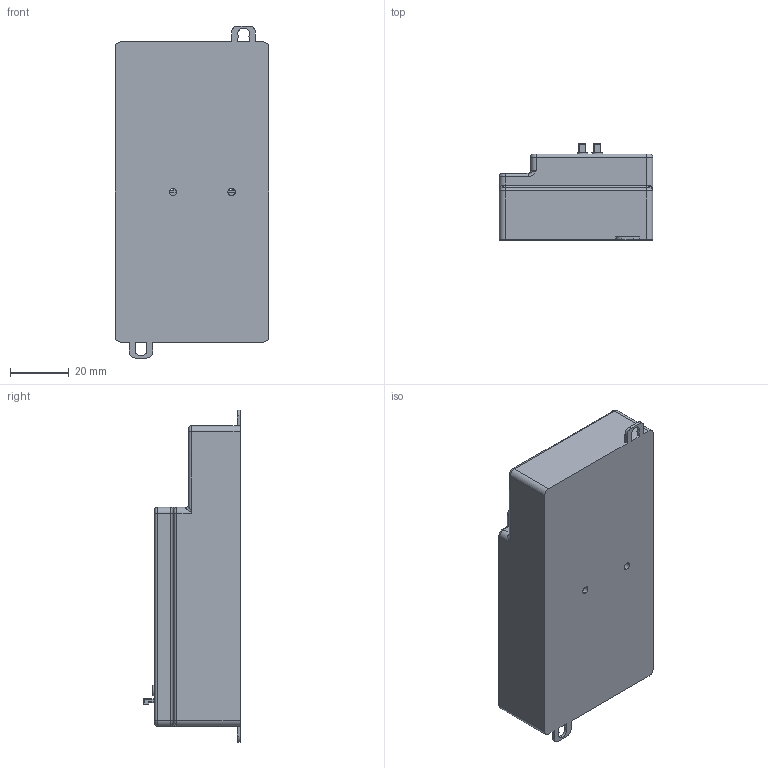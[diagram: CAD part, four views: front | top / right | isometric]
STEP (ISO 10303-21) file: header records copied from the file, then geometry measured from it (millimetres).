
FILE_DESCRIPTION(/* description */ (''),/* implementation_level */ '2;1');
FILE_NAME(/* name */ 'DN16.stp',/* time_stamp */ '2022-01-13T18:32:04+08:00',/* author */ (''),/* organization */ (''),/* preprocessor_version */ 'ST-DEVELOPER v16',/* originating_system */ 'SIEMENS PLM Software NX 10.0',/* authorisation */ '');
FILE_SCHEMA (('AP203_CONFIGURATION_CONTROLLED_3D_DESIGN_OF_MECHANICAL_PARTS_AND_ASSEMBLIES_MIM_LF { 1 0 10303 403 2 1 2}'));
Products named in the file (1): 73494C981A9Cmlum
Bounding box: 52.4 x 32.8 x 113.2 mm (x, y, z)
Volume: 115017.2 mm3; surface area: 48534.1 mm2
Topology: 22 solids, 24 shells, 3934 faces, 10642 edges, 6879 vertices
Faces by surface type: plane 2927, cylinder 663, bspline 248, torus 88, sphere 8
Entity records: 132483 total; most frequent: CARTESIAN_POINT 33933, ORIENTED_EDGE 21262, DIRECTION 19013, EDGE_CURVE 10631, LINE 8401, VECTOR 8401, VERTEX_POINT 6879, AXIS2_PLACEMENT_3D 5306
